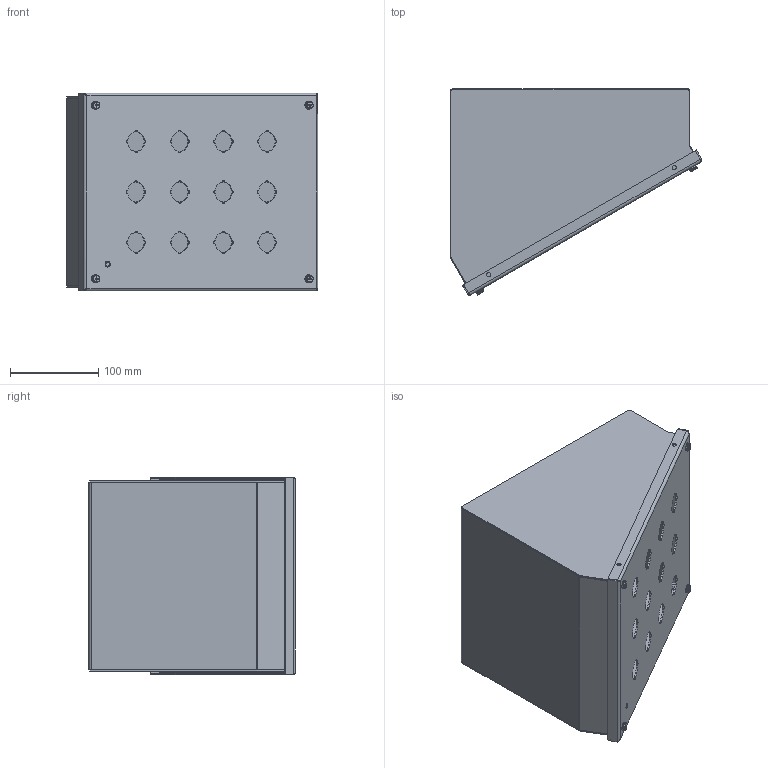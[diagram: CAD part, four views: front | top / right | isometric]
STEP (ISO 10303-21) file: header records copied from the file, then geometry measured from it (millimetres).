
FILE_DESCRIPTION((''),'2;1');
FILE_NAME('MODEL-296_ASM','2021-06-07T16:07:52',('mikek'),('SAGINAW CONTROL & ENGINEERING'),'CREO PARAMETRIC BY PTC INC, 2017260','CREO PARAMETRIC BY PTC INC, 2017260','');
FILE_SCHEMA(('AUTOMOTIVE_DESIGN { 1 0 10303 214 1 1 1 1 }'));
Length unit declared in the file: inch
Products named in the file (14): MODEL-296-BDY; MODEL-296-DR; 100063; 100983; 102534; MODEL-296-GSKT; 100009; CH-ELJ_SUBPANEL; 102479; CH-ELJ_SUBPANEL-SUBASSEMBLY_ASM; 120706; MODEL-296-R-SD; MODEL-296-L-SD; MODEL-296_ASM
Assembly tree (26 placements, depth 3):
  MODEL-296_ASM
    MODEL-296-BDY
    MODEL-296-DR
    100063
    100983  x4
    102534  x4
    MODEL-296-GSKT
    100009  x5
    CH-ELJ_SUBPANEL-SUBASSEMBLY_ASM
      CH-ELJ_SUBPANEL
      102479  x4
    120706
    MODEL-296-R-SD
    MODEL-296-L-SD
Bounding box: 285.07 x 233.96 x 223.84 mm (x, y, z)
Volume: 546233.5 mm3; surface area: 704992.4 mm2
Topology: 28 solids, 28 shells, 1205 faces, 3070 edges, 1800 vertices
Faces by surface type: cylinder 500, plane 389, bspline 168, torus 96, cone 44, sphere 8
Entity records: 32045 total; most frequent: CARTESIAN_POINT 5309, DIRECTION 3949, ORIENTED_EDGE 3580, EDGE_CURVE 1790, PRESENTATION_STYLE_ASSIGNMENT 1705, STYLED_ITEM 1705, CURVE_STYLE 1626, AXIS2_PLACEMENT_3D 1561
